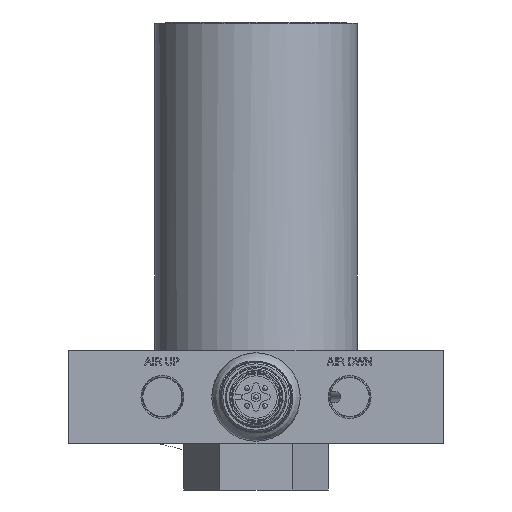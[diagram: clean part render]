
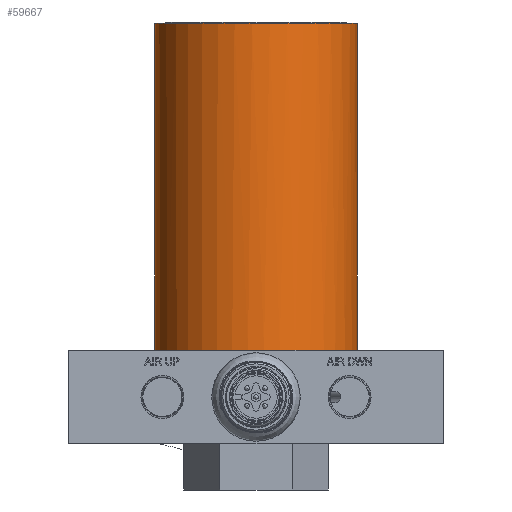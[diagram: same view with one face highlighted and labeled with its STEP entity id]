
A CAD part, front view. The second image highlights one B-rep face of the part: STEP entity #59667.
In plain terms, the highlighted cylindrical face has radius 20.637 mm (diameter 41.275 mm), a full revolution.
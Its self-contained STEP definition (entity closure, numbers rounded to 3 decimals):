
#7237=CIRCLE('',#65303,20.638);
#7238=CIRCLE('',#65305,20.638);
#7239=CIRCLE('',#65307,20.638);
#7241=CIRCLE('',#65310,20.638);
#7242=CIRCLE('',#65311,20.638);
#7243=CIRCLE('',#65312,20.638);
#10316=FACE_OUTER_BOUND('',#14119,.T.);
#14119=EDGE_LOOP('',(#48660,#48661,#48662,#48663,#48664,#48665,#48666,#48667));
#18773=LINE('',#176603,#20350);
#20350=VECTOR('',#76401,20.638);
#24824=VERTEX_POINT('',#173397);
#24826=VERTEX_POINT('',#173401);
#25105=VERTEX_POINT('',#175093);
#25106=VERTEX_POINT('',#175096);
#25376=VERTEX_POINT('',#176597);
#25378=VERTEX_POINT('',#176602);
#33404=EDGE_CURVE('',#24826,#25105,#7237,.T.);
#33405=EDGE_CURVE('',#25106,#24824,#7238,.T.);
#33406=EDGE_CURVE('',#25376,#25376,#7239,.T.);
#33408=EDGE_CURVE('',#25376,#25378,#18773,.T.);
#33409=EDGE_CURVE('',#24824,#25378,#7241,.T.);
#33410=EDGE_CURVE('',#25105,#25106,#7242,.T.);
#33411=EDGE_CURVE('',#25378,#24826,#7243,.T.);
#48660=ORIENTED_EDGE('',*,*,#33406,.T.);
#48661=ORIENTED_EDGE('',*,*,#33408,.T.);
#48662=ORIENTED_EDGE('',*,*,#33409,.F.);
#48663=ORIENTED_EDGE('',*,*,#33405,.F.);
#48664=ORIENTED_EDGE('',*,*,#33410,.F.);
#48665=ORIENTED_EDGE('',*,*,#33404,.F.);
#48666=ORIENTED_EDGE('',*,*,#33411,.F.);
#48667=ORIENTED_EDGE('',*,*,#33408,.F.);
#52983=CYLINDRICAL_SURFACE('',#65309,20.638);
#59667=ADVANCED_FACE('',(#10316),#52983,.T.);
#65303=AXIS2_PLACEMENT_3D('',#176593,#76387,#76388);
#65305=AXIS2_PLACEMENT_3D('',#176595,#76391,#76392);
#65307=AXIS2_PLACEMENT_3D('',#176598,#76395,#76396);
#65309=AXIS2_PLACEMENT_3D('',#176601,#76399,#76400);
#65310=AXIS2_PLACEMENT_3D('',#176604,#76402,#76403);
#65311=AXIS2_PLACEMENT_3D('',#176605,#76404,#76405);
#65312=AXIS2_PLACEMENT_3D('',#176606,#76406,#76407);
#76387=DIRECTION('center_axis',(0.,0.,-1.));
#76388=DIRECTION('ref_axis',(-0.039,-0.999,0.));
#76391=DIRECTION('center_axis',(0.,0.,-1.));
#76392=DIRECTION('ref_axis',(-0.039,-0.999,0.));
#76395=DIRECTION('center_axis',(0.,0.,
-1.));
#76396=DIRECTION('ref_axis',(-0.039,-0.999,0.));
#76399=DIRECTION('center_axis',(0.,0.,
1.));
#76400=DIRECTION('ref_axis',(-0.039,-0.999,0.));
#76401=DIRECTION('',(0.,0.,-1.));
#76402=DIRECTION('center_axis',(0.,0.,
-1.));
#76403=DIRECTION('ref_axis',(-0.039,-0.999,0.));
#76404=DIRECTION('center_axis',(0.,0.,
-1.));
#76405=DIRECTION('ref_axis',(-0.039,-0.999,0.));
#76406=DIRECTION('center_axis',(0.,0.,
-1.));
#76407=DIRECTION('ref_axis',(-0.039,-0.999,0.));
#173397=CARTESIAN_POINT('',(-7.938,19.05,19.05));
#173401=CARTESIAN_POINT('',(7.938,19.05,19.05));
#175093=CARTESIAN_POINT('',(7.938,-19.05,19.05));
#175096=CARTESIAN_POINT('',(-7.938,-19.05,19.05));
#176593=CARTESIAN_POINT('Origin',(0.,0.,
19.05));
#176595=CARTESIAN_POINT('Origin',(0.,0.,
19.05));
#176597=CARTESIAN_POINT('',(0.797,20.622,85.598));
#176598=CARTESIAN_POINT('Origin',(0.,0.,
85.598));
#176601=CARTESIAN_POINT('Origin',(0.,0.,
19.05));
#176602=CARTESIAN_POINT('',(0.797,20.622,19.05));
#176603=CARTESIAN_POINT('',(0.797,20.622,19.05));
#176604=CARTESIAN_POINT('Origin',(0.,0.,
19.05));
#176605=CARTESIAN_POINT('Origin',(0.,0.,
19.05));
#176606=CARTESIAN_POINT('Origin',(0.,0.,
19.05));
